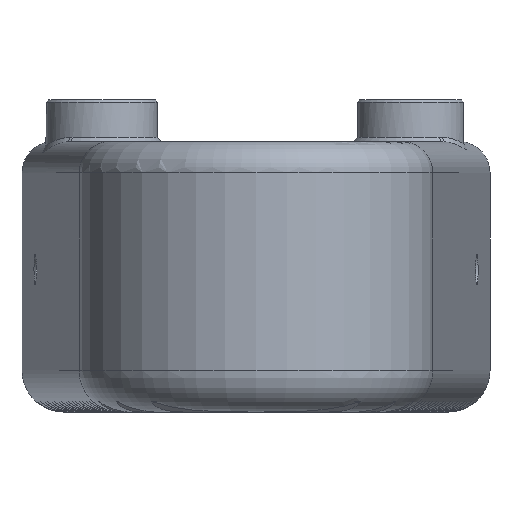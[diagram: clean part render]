
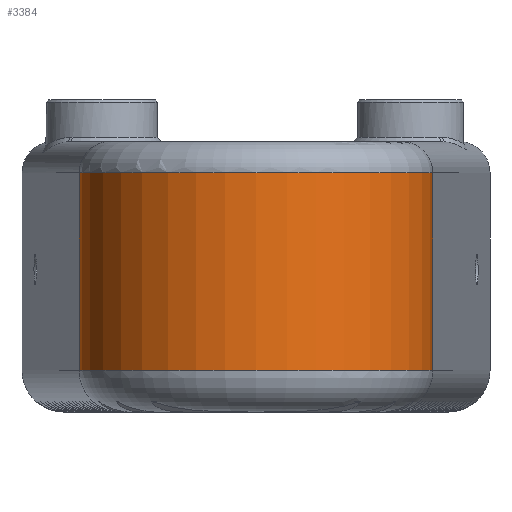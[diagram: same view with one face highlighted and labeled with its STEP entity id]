
A CAD part, front view. The second image highlights one B-rep face of the part: STEP entity #3384.
In plain terms, the highlighted cylindrical face has radius 21.59 mm (diameter 43.18 mm), a partial arc.
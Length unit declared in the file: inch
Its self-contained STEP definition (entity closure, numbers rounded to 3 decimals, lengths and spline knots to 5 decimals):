
#263=CYLINDRICAL_SURFACE('',#3619,0.85);
#299=CIRCLE('',#3609,0.85);
#304=CIRCLE('',#3620,0.85);
#435=FACE_OUTER_BOUND('',#650,.T.);
#650=EDGE_LOOP('',(#2421,#2422,#2423,#2424));
#855=LINE('',#6247,#1086);
#858=LINE('',#6264,#1089);
#1086=VECTOR('',#4031,0.3937);
#1089=VECTOR('',#4036,0.3937);
#1472=VERTEX_POINT('',#6176);
#1473=VERTEX_POINT('',#6193);
#1480=VERTEX_POINT('',#6246);
#1483=VERTEX_POINT('',#6263);
#1821=EDGE_CURVE('',#1472,#1473,#299,.T.);
#1834=EDGE_CURVE('',#1480,#1473,#855,.T.);
#1838=EDGE_CURVE('',#1472,#1483,#858,.T.);
#1839=EDGE_CURVE('',#1480,#1483,#304,.T.);
#2421=ORIENTED_EDGE('',*,*,#1821,.F.);
#2422=ORIENTED_EDGE('',*,*,#1838,.T.);
#2423=ORIENTED_EDGE('',*,*,#1839,.F.);
#2424=ORIENTED_EDGE('',*,*,#1834,.T.);
#3384=ADVANCED_FACE('',(#435),#263,.T.);
#3609=AXIS2_PLACEMENT_3D('',#6194,#4008,#4009);
#3619=AXIS2_PLACEMENT_3D('',#6262,#4034,#4035);
#3620=AXIS2_PLACEMENT_3D('',#6265,#4037,#4038);
#4008=DIRECTION('center_axis',(0.,0.,1.));
#4009=DIRECTION('ref_axis',(0.,-1.,0.));
#4031=DIRECTION('',(0.,0.,1.));
#4034=DIRECTION('center_axis',(0.,0.,-1.));
#4035=DIRECTION('ref_axis',(-1.,0.,0.));
#4036=DIRECTION('',(0.,0.,-1.));
#4037=DIRECTION('center_axis',(0.,0.,-1.));
#4038=DIRECTION('ref_axis',(0.,-1.,0.));
#6176=CARTESIAN_POINT('',(-0.85,-2.5,0.65));
#6193=CARTESIAN_POINT('',(0.85,-2.5,0.65));
#6194=CARTESIAN_POINT('Origin',(0.,-2.5,0.65));
#6246=CARTESIAN_POINT('',(0.85,-2.5,-0.3));
#6247=CARTESIAN_POINT('',(0.85,-2.5,0.));
#6262=CARTESIAN_POINT('Origin',(0.,-2.5,0.));
#6263=CARTESIAN_POINT('',(-0.85,-2.5,-0.3));
#6264=CARTESIAN_POINT('',(-0.85,-2.5,0.));
#6265=CARTESIAN_POINT('Origin',(0.,-2.5,-0.3));
